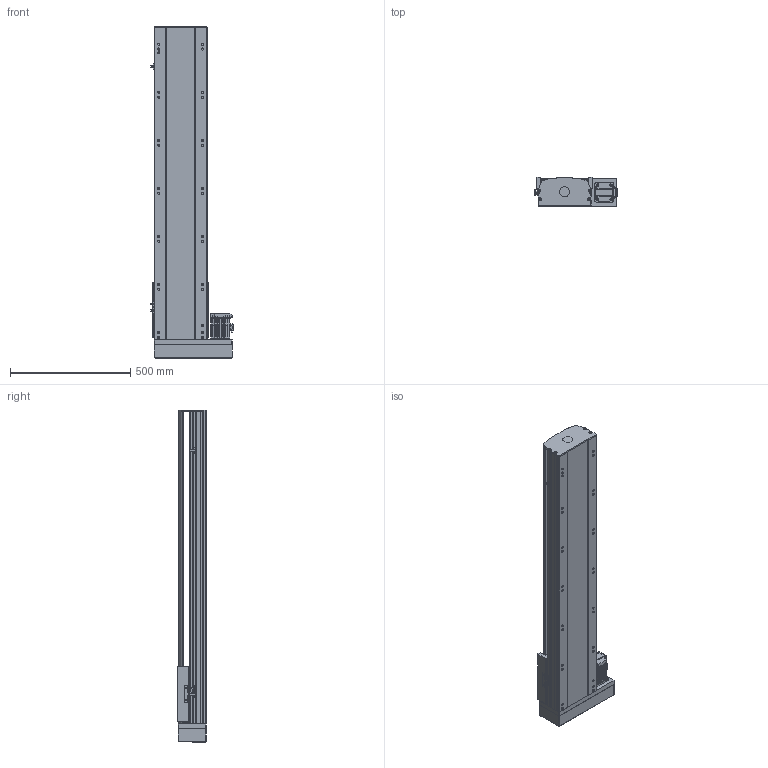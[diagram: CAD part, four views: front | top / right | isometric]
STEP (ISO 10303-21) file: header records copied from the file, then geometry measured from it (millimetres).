
FILE_DESCRIPTION (( 'STEP AP214' ), '1' );
FILE_NAME ('QTH22-1000-BR-P75.STEP', '2021-11-13T10:34:29', ( '' ), ( '' ), 'SwSTEP 2.0', 'SolidWorks 2020', '' );
FILE_SCHEMA (( 'AUTOMOTIVE_DESIGN' ));
Length unit declared in the file: millimetre
Products named in the file (6): 葩璃 QTH22-BR-002 奻裔MZ-220-02^QTH22-BR-P75; 葩璃 MSMD08PC_P75^QTH22-BR-P75; 葩璃 QTH22-BR-001 菁釱MZ-220-01^QTH22-BR-P75; 葩璃 pm-t65-672^QTH22-BR-P75; 葩璃 QTH22-BC-005 賑釱MZ-220-03^QTH22-BR-P75_SFA25; QTH22-1000-BR-P75
Assembly tree (7 placements, depth 2):
  QTH22-1000-BR-P75
    葩璃 QTH22-BR-001 菁釱MZ-220-01^QTH22-BR-P75
    葩璃 QTH22-BR-002 奻裔MZ-220-02^QTH22-BR-P75
    葩璃 QTH22-BC-005 賑釱MZ-220-03^QTH22-BR-P75_SFA25
    葩璃 pm-t65-672^QTH22-BR-P75  x3
    葩璃 MSMD08PC_P75^QTH22-BR-P75
Bounding box: 342.2 x 122 x 1382 mm (x, y, z)
Volume: 19644239.3 mm3; surface area: 2067644 mm2
Topology: 11 solids, 11 shells, 1575 faces, 4178 edges, 2675 vertices
Faces by surface type: plane 914, cylinder 549, cone 90, bspline 22
Entity records: 44121 total; most frequent: CARTESIAN_POINT 9181, DIRECTION 7061, ORIENTED_EDGE 6916, EDGE_CURVE 3458, AXIS2_PLACEMENT_3D 2362, VECTOR 2337, LINE 2337, VERTEX_POINT 2251
